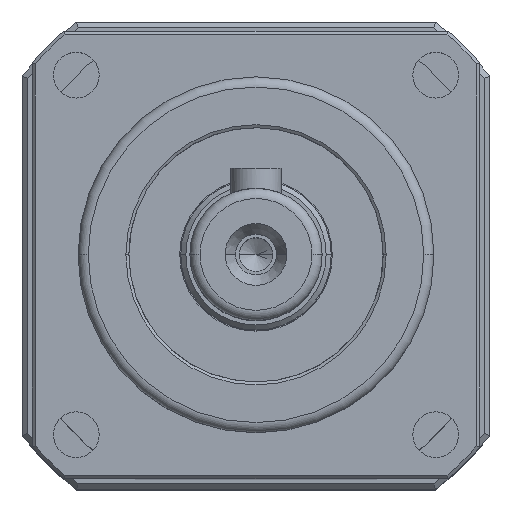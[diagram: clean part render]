
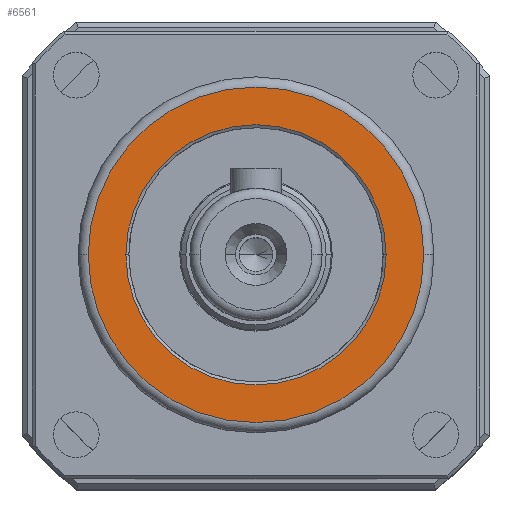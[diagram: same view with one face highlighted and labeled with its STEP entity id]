
A CAD part, top view. The second image highlights one B-rep face of the part: STEP entity #6561.
In plain terms, the highlighted planar face has unit normal (0, 0, 1).
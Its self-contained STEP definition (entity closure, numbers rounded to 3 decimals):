
#171 = CIRCLE ( 'NONE', #7240, 16.5 ) ;
#408 = EDGE_CURVE ( 'NONE', #1482, #11579, #2268, .T. ) ;
#930 = AXIS2_PLACEMENT_3D ( 'NONE', #14600, #6442, #15966 ) ;
#1138 = VERTEX_POINT ( 'NONE', #1569 ) ;
#1482 = VERTEX_POINT ( 'NONE', #9631 ) ;
#1548 = CIRCLE ( 'NONE', #930, 12.8 ) ;
#1569 = CARTESIAN_POINT ( 'NONE',  ( -12.8, 0., 5. ) ) ;
#2268 = CIRCLE ( 'NONE', #7244, 16.5 ) ;
#2315 = CARTESIAN_POINT ( 'NONE',  ( 0., 0., 5. ) ) ;
#2920 = EDGE_CURVE ( 'NONE', #1138, #3687, #8345, .T. ) ;
#3451 = EDGE_LOOP ( 'NONE', ( #17292, #15287 ) ) ;
#3687 = VERTEX_POINT ( 'NONE', #7252 ) ;
#3689 = DIRECTION ( 'NONE',  ( 1., 0., 0. ) ) ;
#4520 = ORIENTED_EDGE ( 'NONE', *, *, #15658, .T. ) ;
#4544 = AXIS2_PLACEMENT_3D ( 'NONE', #6249, #15774, #7604 ) ;
#5202 = FACE_OUTER_BOUND ( 'NONE', #3451, .T. ) ;
#5282 = EDGE_LOOP ( 'NONE', ( #4520, #11044 ) ) ;
#6249 = CARTESIAN_POINT ( 'NONE',  ( 0., 0., 5. ) ) ;
#6442 = DIRECTION ( 'NONE',  ( 0., 0., -1. ) ) ;
#6555 = DIRECTION ( 'NONE',  ( 1., 0., 0. ) ) ;
#6561 = ADVANCED_FACE ( 'NONE', ( #11155, #5202 ), #17396, .T. ) ;
#7240 = AXIS2_PLACEMENT_3D ( 'NONE', #2315, #11802, #3689 ) ;
#7244 = AXIS2_PLACEMENT_3D ( 'NONE', #7792, #17335, #9188 ) ;
#7252 = CARTESIAN_POINT ( 'NONE',  ( 12.8, 0., 5. ) ) ;
#7604 = DIRECTION ( 'NONE',  ( 1., 0., 0. ) ) ;
#7792 = CARTESIAN_POINT ( 'NONE',  ( 0., 0., 5. ) ) ;
#8345 = CIRCLE ( 'NONE', #4544, 12.8 ) ;
#9188 = DIRECTION ( 'NONE',  ( 1., 0., 0. ) ) ;
#9631 = CARTESIAN_POINT ( 'NONE',  ( 16.5, 0., 5. ) ) ;
#9856 = AXIS2_PLACEMENT_3D ( 'NONE', #11977, #14721, #6555 ) ;
#11044 = ORIENTED_EDGE ( 'NONE', *, *, #2920, .T. ) ;
#11155 = FACE_BOUND ( 'NONE', #5282, .T. ) ;
#11579 = VERTEX_POINT ( 'NONE', #15719 ) ;
#11802 = DIRECTION ( 'NONE',  ( 0., 0., 1. ) ) ;
#11977 = CARTESIAN_POINT ( 'NONE',  ( 0., 0., 5. ) ) ;
#13741 = EDGE_CURVE ( 'NONE', #11579, #1482, #171, .T. ) ;
#14600 = CARTESIAN_POINT ( 'NONE',  ( 0., 0., 5. ) ) ;
#14721 = DIRECTION ( 'NONE',  ( 0., 0., 1. ) ) ;
#15287 = ORIENTED_EDGE ( 'NONE', *, *, #13741, .T. ) ;
#15658 = EDGE_CURVE ( 'NONE', #3687, #1138, #1548, .T. ) ;
#15719 = CARTESIAN_POINT ( 'NONE',  ( -16.5, 0., 5. ) ) ;
#15774 = DIRECTION ( 'NONE',  ( 0., 0., -1. ) ) ;
#15966 = DIRECTION ( 'NONE',  ( 1., 0., 0. ) ) ;
#17292 = ORIENTED_EDGE ( 'NONE', *, *, #408, .T. ) ;
#17335 = DIRECTION ( 'NONE',  ( 0., 0., 1. ) ) ;
#17396 = PLANE ( 'NONE',  #9856 ) ;
